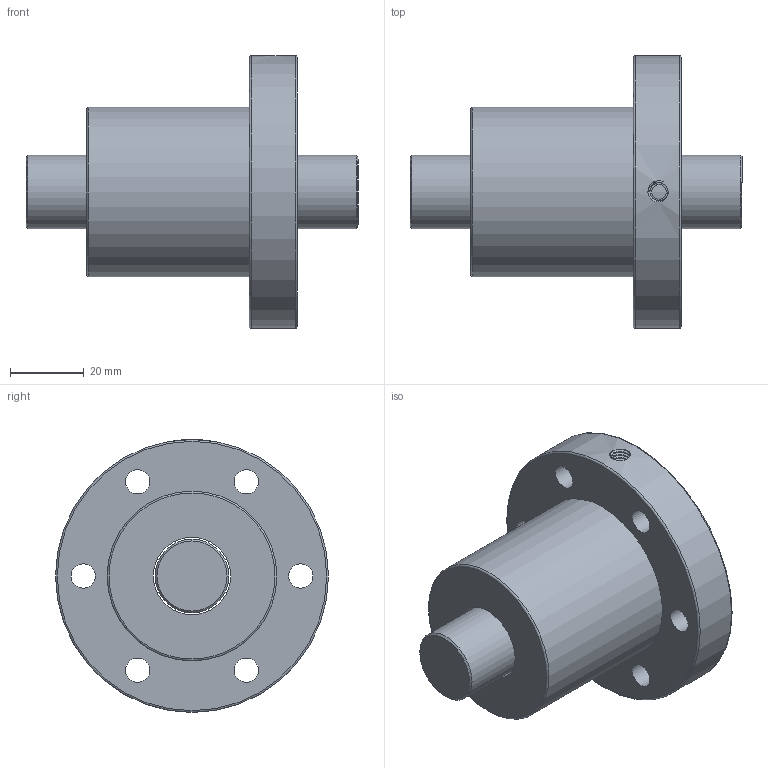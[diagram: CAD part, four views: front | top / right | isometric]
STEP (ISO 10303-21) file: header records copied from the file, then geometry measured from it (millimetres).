
FILE_DESCRIPTION(/* description */ ('Unknown','CAx-IF Rec.Pracs.---Representation and Presentation of Product Manufacturing Information (PMI)---4.0---2014-10-13','CAx-IF Rec.Pracs.---3D Tessellated Geometry---0.4---2014-09-14','2;1'),/* implementation_level */ '2;1');
FILE_NAME(/* name */ 'SFV02010-2.7',/* time_stamp */ '2020-12-08T10:15:32+08:00',/* author */ ('Unknown'),/* organization */ ('Unknown'),/* preprocessor_version */ 'ST-DEVELOPER v16.7',/* originating_system */ 'Solid Edge',/* authorisation */ 'Unknown');
FILE_SCHEMA (('AP242_MANAGED_MODEL_BASED_3D_ENGINEERING_MIM_LF { 1 0 10303 442 1 1 4 }'));
Length unit declared in the file: millimetre
Products named in the file (1): SFV02010-2.7
Bounding box: 90 x 74 x 74 mm (x, y, z)
Volume: 132061.9 mm3; surface area: 29339.6 mm2
Topology: 2 solids, 2 shells, 38 faces, 74 edges, 48 vertices
Faces by surface type: cylinder 19, plane 12, torus 3, cone 2, bspline 2
Full cylindrical faces by diameter (mm): 4 x1, 6.6 x6, 11 x6, 20 x1, 21 x1, 46 x1, 74 x1
Entity records: 3279 total; most frequent: CARTESIAN_POINT 2474, DIRECTION 160, ORIENTED_EDGE 102, EDGE_LOOP 84, FACE_BOUND 84, AXIS2_PLACEMENT_3D 81, EDGE_CURVE 51, VERTEX_POINT 47
